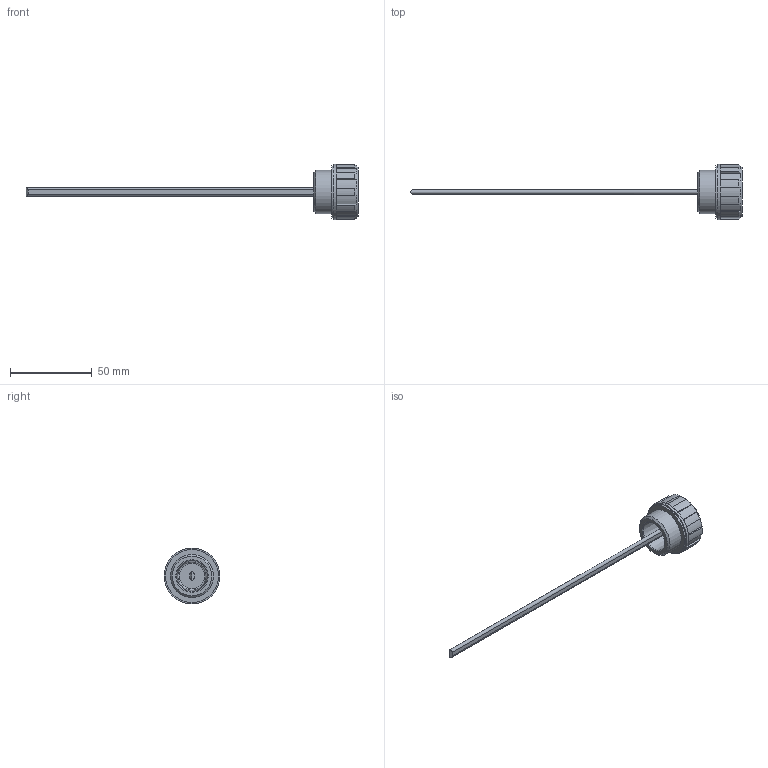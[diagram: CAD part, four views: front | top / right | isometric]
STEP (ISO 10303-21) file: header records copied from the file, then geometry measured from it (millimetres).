
FILE_DESCRIPTION( ( 'STEP AP203' ), '1' );
FILE_NAME( 'C:/Temp/Ganter_Step_05_03_2020/data/3_5/gn548_1/Plug GN 548.1-G3_4-B.stp', '2020-03-12T13:35:46', ( 'License CC BY-ND 4.0' ), ( 'CADENAS' ), ' ', 'PARTsolutions', ' ' );
FILE_SCHEMA( ( 'CONFIG_CONTROL_DESIGN' ) );
Length unit declared in the file: millimetre
Products named in the file (1): _Plug GN 548.1-G3/4-B
Bounding box: 203 x 34 x 34 mm (x, y, z)
Volume: 16056.9 mm3; surface area: 8512.9 mm2
Topology: 1 solids, 1 shells, 62 faces, 160 edges, 106 vertices
Faces by surface type: plane 31, cylinder 26, cone 3, torus 2
Full cylindrical faces by diameter (mm): 26.441 x1, 30.909 x1, 32.3 x1, 34 x1
Entity records: 1909 total; most frequent: CARTESIAN_POINT 376, DIRECTION 315, ORIENTED_EDGE 298, EDGE_CURVE 149, AXIS2_PLACEMENT_3D 123, VERTEX_POINT 104, EDGE_LOOP 77, LINE 69
